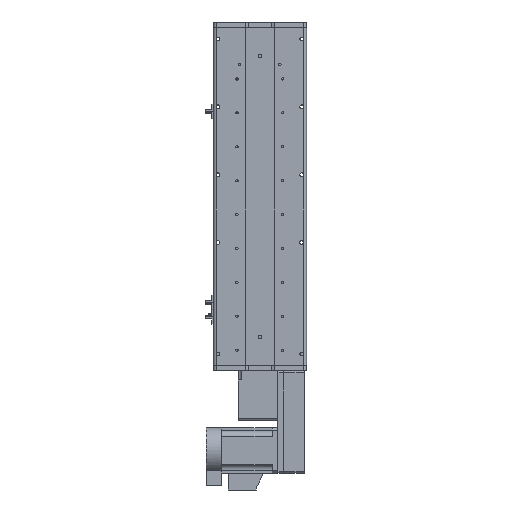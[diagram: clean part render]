
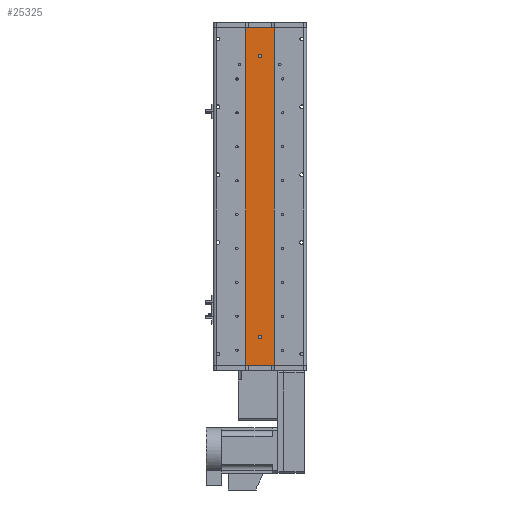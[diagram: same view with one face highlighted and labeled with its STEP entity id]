
A CAD part, front view. The second image highlights one B-rep face of the part: STEP entity #25325.
In plain terms, the highlighted planar face has unit normal (0, -1, 0).
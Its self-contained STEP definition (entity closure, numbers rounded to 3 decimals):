
#1104 = EDGE_CURVE ( 'NONE', #49887, #20985, #21238, .T. ) ;
#2690 = CARTESIAN_POINT ( 'NONE',  ( 25., 1., -298.5 ) ) ;
#5347 = CARTESIAN_POINT ( 'NONE',  ( 0., 1., -248.5 ) ) ;
#6440 = EDGE_CURVE ( 'NONE', #34204, #11590, #21366, .T. ) ;
#8078 = VECTOR ( 'NONE', #11053, 1000. ) ;
#8258 = LINE ( 'NONE', #23761, #30252 ) ;
#8754 = CARTESIAN_POINT ( 'NONE',  ( -25., 1., 298.5 ) ) ;
#9477 = CARTESIAN_POINT ( 'NONE',  ( -25., 1., -298.5 ) ) ;
#9558 = DIRECTION ( 'NONE',  ( 0., 1., 0. ) ) ;
#10100 = DIRECTION ( 'NONE',  ( 0., 0., 1. ) ) ;
#10159 = DIRECTION ( 'NONE',  ( 0., 1., 0. ) ) ;
#11053 = DIRECTION ( 'NONE',  ( 0., 0., -1. ) ) ;
#11590 = VERTEX_POINT ( 'NONE', #13462 ) ;
#11789 = EDGE_LOOP ( 'NONE', ( #46634, #51239, #36167, #41117 ) ) ;
#12155 = AXIS2_PLACEMENT_3D ( 'NONE', #23029, #55857, #27732 ) ;
#12311 = EDGE_CURVE ( 'NONE', #11590, #34204, #57452, .T. ) ;
#12882 = CARTESIAN_POINT ( 'NONE',  ( 25., 1., 298.5 ) ) ;
#13462 = CARTESIAN_POINT ( 'NONE',  ( 0., 1., 251.5 ) ) ;
#13661 = EDGE_CURVE ( 'NONE', #20985, #49887, #43316, .T. ) ;
#15139 = FACE_BOUND ( 'NONE', #34178, .T. ) ;
#15497 = DIRECTION ( 'NONE',  ( 1., 0., 0. ) ) ;
#15671 = AXIS2_PLACEMENT_3D ( 'NONE', #33525, #10159, #42964 ) ;
#18412 = LINE ( 'NONE', #8754, #43409 ) ;
#19510 = EDGE_CURVE ( 'NONE', #36942, #52959, #8258, .T. ) ;
#20563 = DIRECTION ( 'NONE',  ( 0., 1., 0. ) ) ;
#20985 = VERTEX_POINT ( 'NONE', #51270 ) ;
#21238 = CIRCLE ( 'NONE', #60808, 3. ) ;
#21366 = CIRCLE ( 'NONE', #36113, 3. ) ;
#23029 = CARTESIAN_POINT ( 'NONE',  ( 0., 1., -248.5 ) ) ;
#23381 = EDGE_CURVE ( 'NONE', #52959, #32589, #58000, .T. ) ;
#23761 = CARTESIAN_POINT ( 'NONE',  ( 25., 1., 298.5 ) ) ;
#25062 = VECTOR ( 'NONE', #15497, 1000. ) ;
#25325 = ADVANCED_FACE ( 'NONE', ( #15139, #51113, #26168 ), #51990, .F. ) ;
#26168 = FACE_OUTER_BOUND ( 'NONE', #11789, .T. ) ;
#27732 = DIRECTION ( 'NONE',  ( 0., 0., 1. ) ) ;
#29730 = ORIENTED_EDGE ( 'NONE', *, *, #12311, .T. ) ;
#29802 = VERTEX_POINT ( 'NONE', #9477 ) ;
#30252 = VECTOR ( 'NONE', #51868, 1000. ) ;
#32589 = VERTEX_POINT ( 'NONE', #2690 ) ;
#33525 = CARTESIAN_POINT ( 'NONE',  ( 25., 1., 298.5 ) ) ;
#34178 = EDGE_LOOP ( 'NONE', ( #51960, #46459 ) ) ;
#34204 = VERTEX_POINT ( 'NONE', #35605 ) ;
#35605 = CARTESIAN_POINT ( 'NONE',  ( 0., 1., 245.5 ) ) ;
#35934 = EDGE_CURVE ( 'NONE', #36942, #29802, #18412, .T. ) ;
#36087 = EDGE_CURVE ( 'NONE', #29802, #32589, #45585, .T. ) ;
#36113 = AXIS2_PLACEMENT_3D ( 'NONE', #48732, #20563, #53445 ) ;
#36167 = ORIENTED_EDGE ( 'NONE', *, *, #19510, .F. ) ;
#36535 = CARTESIAN_POINT ( 'NONE',  ( -25., 1., 298.5 ) ) ;
#36942 = VERTEX_POINT ( 'NONE', #36535 ) ;
#37642 = CARTESIAN_POINT ( 'NONE',  ( 0., 1., 248.5 ) ) ;
#37978 = AXIS2_PLACEMENT_3D ( 'NONE', #37642, #9558, #42340 ) ;
#38183 = DIRECTION ( 'NONE',  ( 0., 1., 0. ) ) ;
#38896 = CARTESIAN_POINT ( 'NONE',  ( 25., 1., -298.5 ) ) ;
#41117 = ORIENTED_EDGE ( 'NONE', *, *, #35934, .T. ) ;
#41573 = DIRECTION ( 'NONE',  ( 0., 0., -1. ) ) ;
#42340 = DIRECTION ( 'NONE',  ( 0., 0., 1. ) ) ;
#42964 = DIRECTION ( 'NONE',  ( 0., 0., 1. ) ) ;
#43316 = CIRCLE ( 'NONE', #12155, 3. ) ;
#43409 = VECTOR ( 'NONE', #41573, 1000. ) ;
#45585 = LINE ( 'NONE', #38896, #25062 ) ;
#46459 = ORIENTED_EDGE ( 'NONE', *, *, #1104, .T. ) ;
#46634 = ORIENTED_EDGE ( 'NONE', *, *, #36087, .T. ) ;
#48345 = EDGE_LOOP ( 'NONE', ( #60644, #29730 ) ) ;
#48357 = CARTESIAN_POINT ( 'NONE',  ( 25., 1., 298.5 ) ) ;
#48732 = CARTESIAN_POINT ( 'NONE',  ( 0., 1., 248.5 ) ) ;
#49887 = VERTEX_POINT ( 'NONE', #59638 ) ;
#51113 = FACE_BOUND ( 'NONE', #48345, .T. ) ;
#51239 = ORIENTED_EDGE ( 'NONE', *, *, #23381, .F. ) ;
#51270 = CARTESIAN_POINT ( 'NONE',  ( 0., 1., -251.5 ) ) ;
#51868 = DIRECTION ( 'NONE',  ( 1., 0., 0. ) ) ;
#51960 = ORIENTED_EDGE ( 'NONE', *, *, #13661, .T. ) ;
#51990 = PLANE ( 'NONE',  #15671 ) ;
#52959 = VERTEX_POINT ( 'NONE', #12882 ) ;
#53445 = DIRECTION ( 'NONE',  ( 0., 0., 1. ) ) ;
#55857 = DIRECTION ( 'NONE',  ( 0., 1., 0. ) ) ;
#57452 = CIRCLE ( 'NONE', #37978, 3. ) ;
#58000 = LINE ( 'NONE', #48357, #8078 ) ;
#59638 = CARTESIAN_POINT ( 'NONE',  ( 0., 1., -245.5 ) ) ;
#60644 = ORIENTED_EDGE ( 'NONE', *, *, #6440, .T. ) ;
#60808 = AXIS2_PLACEMENT_3D ( 'NONE', #5347, #38183, #10100 ) ;
